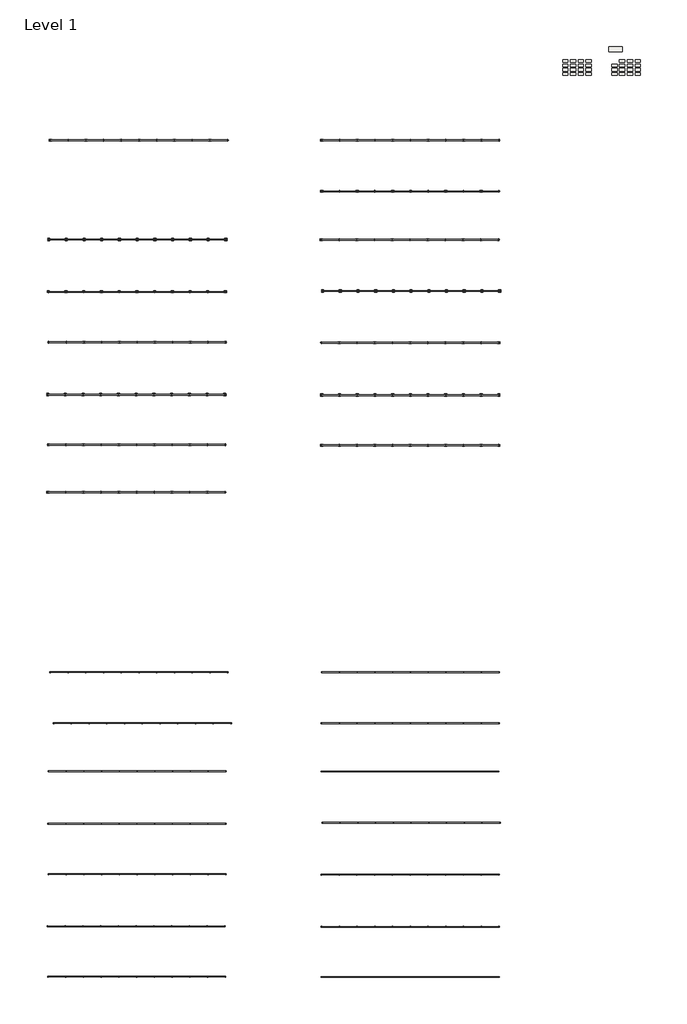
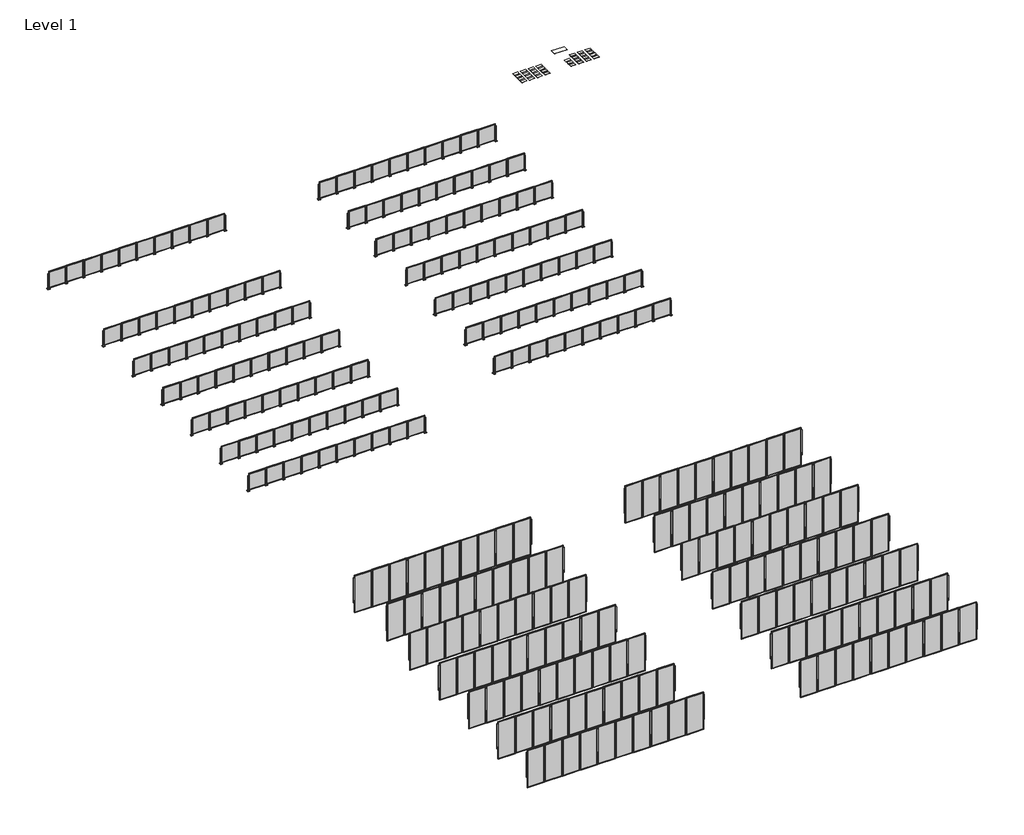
# One storey, incomplete: 32 slabs, 28 railings.
"""IFC4 building model written with IfcOpenShell, lengths in millimetres."""

from ifc_helpers import new_model, si_unit, frame, origin, place, context, project, spatial, polyline, outline, extrude, transform, mapped, element, save
from components import railing_5091dd00, railing_f60c109b, railing_ad077372, railing_c032f412, railing_22398365, railing_f4ae32ae, railing_47f15f1b, railing_b8a2d812, railing_13d9c8be, railing_e755882f, railing_f29662bd, railing_91e372f4, railing_0f50bcc0, railing_ad05e1b3, railing_8ff6461c, railing_0fd0b3dd, railing_570395e1, railing_dd76d824, railing_f9ef94e7, railing_c4543240, railing_b0e1d4a2, railing_f31c3002, railing_685e31f2, railing_c32b87f0, railing_c7cb529c, railing_8000f94c, railing_b8c0e774, railing_c7c183e7, railing_e510e1b7, railing_9c9bc759, railing_63da7288, railing_f84e100f, railing_f112f67b, railing_d92950a9, railing_2fe99872, railing_5ce61c46, railing_f1457b38, railing_005fe630, railing_8295e99d, railing_52cd1594, railing_f4e55a87, railing_542db5f6, railing_95e22be3, railing_e50479f8, railing_5d727bff, railing_dcffd05b, railing_ea33e46e, railing_fd5b3ce3, railing_5ba829ca, railing_43f9bcb1, railing_57754099, railing_bb2afcd9, railing_6d0a6d45, railing_a62e751d, railing_22421f22, railing_7f5f2e83

model = new_model("IFC4")

# Units and contexts
model_context = context("Model", 3, world=origin())
ifc_project = project(units=[si_unit("LENGTHUNIT", "METRE", prefix="MILLI")], contexts=[model_context])

# Site, building, storey
site = spatial("IfcSite", under=ifc_project)
building = spatial("IfcBuilding", under=site)
storey = spatial("IfcBuildingStorey", under=building, Name="Level 1", Elevation=0.0)

# Railings
placement = place(None, origin())
railing_shape = railing_5091dd00(model_context)
railing_2_shape = railing_f60c109b(model_context)
railing_3_shape = railing_ad077372(model_context)
element("IfcRailing", 1, ObjectType="Railing - Amico Architectural - Perforated Railing - Sunshade", at=placement, inside=storey, context=model_context, shape_type="MappedRepresentation", body=[
    mapped(railing_shape, transform((0.0, 0.0, 0.0), x_axis=(1.0, 0.0, 0.0), y_axis=(0.0, 1.0, 0.0), z_axis=(0.0, 0.0, 1.0))),
    mapped(railing_2_shape, transform((0.0, 0.0, 0.0), x_axis=(1.0, 0.0, 0.0), y_axis=(0.0, 1.0, 0.0), z_axis=(0.0, 0.0, 1.0))),
    mapped(railing_3_shape, transform((0.0, 0.0, 0.0), x_axis=(1.0, 0.0, 0.0), y_axis=(0.0, 1.0, 0.0), z_axis=(0.0, 0.0, 1.0))),
])
railing_4_shape = railing_c032f412(model_context)
railing_5_shape = railing_22398365(model_context)
railing_6_shape = railing_f4ae32ae(model_context)
element("IfcRailing", 2, ObjectType="Railing - Amico Architectural - Perforated Railing - 1/4\" Circle - 3/8\" Staggered", at=placement, inside=storey, context=model_context, shape_type="MappedRepresentation", body=[
    mapped(railing_4_shape, transform((0.0, 0.0, 0.0), x_axis=(1.0, 0.0, 0.0), y_axis=(0.0, 1.0, 0.0), z_axis=(0.0, 0.0, 1.0))),
    mapped(railing_5_shape, transform((0.0, 0.0, 0.0), x_axis=(1.0, 0.0, 0.0), y_axis=(0.0, 1.0, 0.0), z_axis=(0.0, 0.0, 1.0))),
    mapped(railing_6_shape, transform((0.0, 0.0, 0.0), x_axis=(1.0, 0.0, 0.0), y_axis=(0.0, 1.0, 0.0), z_axis=(0.0, 0.0, 1.0))),
])
railing_7_shape = railing_47f15f1b(model_context)
railing_8_shape = railing_b8a2d812(model_context)
railing_9_shape = railing_13d9c8be(model_context)
element("IfcRailing", 3, ObjectType="Railing - Amico Architectural - Perforated Railing - Apex01", at=placement, inside=storey, context=model_context, shape_type="MappedRepresentation", body=[
    mapped(railing_7_shape, transform((0.0, 0.0, 0.0), x_axis=(1.0, 0.0, 0.0), y_axis=(0.0, 1.0, 0.0), z_axis=(0.0, 0.0, 1.0))),
    mapped(railing_8_shape, transform((0.0, 0.0, 0.0), x_axis=(1.0, 0.0, 0.0), y_axis=(0.0, 1.0, 0.0), z_axis=(0.0, 0.0, 1.0))),
    mapped(railing_9_shape, transform((0.0, 0.0, 0.0), x_axis=(1.0, 0.0, 0.0), y_axis=(0.0, 1.0, 0.0), z_axis=(0.0, 0.0, 1.0))),
])
railing_10_shape = railing_e755882f(model_context)
railing_11_shape = railing_f29662bd(model_context)
railing_12_shape = railing_91e372f4(model_context)
element("IfcRailing", 4, ObjectType="Railing - Amico Architectural - Perforated Railing - 3/4\" Circle - 1\" Staggered", at=placement, inside=storey, context=model_context, shape_type="MappedRepresentation", body=[
    mapped(railing_10_shape, transform((0.0, 0.0, 0.0), x_axis=(1.0, 0.0, 0.0), y_axis=(0.0, 1.0, 0.0), z_axis=(0.0, 0.0, 1.0))),
    mapped(railing_11_shape, transform((0.0, 0.0, 0.0), x_axis=(1.0, 0.0, 0.0), y_axis=(0.0, 1.0, 0.0), z_axis=(0.0, 0.0, 1.0))),
    mapped(railing_12_shape, transform((0.0, 0.0, 0.0), x_axis=(1.0, 0.0, 0.0), y_axis=(0.0, 1.0, 0.0), z_axis=(0.0, 0.0, 1.0))),
])
railing_13_shape = railing_0f50bcc0(model_context)
railing_14_shape = railing_ad05e1b3(model_context)
railing_15_shape = railing_8ff6461c(model_context)
element("IfcRailing", 5, ObjectType="Railing - Amico Architectural - Perforated Railing - Apex02", at=placement, inside=storey, context=model_context, shape_type="MappedRepresentation", body=[
    mapped(railing_13_shape, transform((0.0, 0.0, 0.0), x_axis=(1.0, 0.0, 0.0), y_axis=(0.0, 1.0, 0.0), z_axis=(0.0, 0.0, 1.0))),
    mapped(railing_14_shape, transform((0.0, 0.0, 0.0), x_axis=(1.0, 0.0, 0.0), y_axis=(0.0, 1.0, 0.0), z_axis=(0.0, 0.0, 1.0))),
    mapped(railing_15_shape, transform((0.0, 0.0, 0.0), x_axis=(1.0, 0.0, 0.0), y_axis=(0.0, 1.0, 0.0), z_axis=(0.0, 0.0, 1.0))),
])
railing_16_shape = railing_0fd0b3dd(model_context)
railing_17_shape = railing_570395e1(model_context)
railing_18_shape = railing_dd76d824(model_context)
element("IfcRailing", 6, ObjectType="Railing - Amico Architectural - Perforated Railing - Crescent", at=placement, inside=storey, context=model_context, shape_type="MappedRepresentation", body=[
    mapped(railing_16_shape, transform((0.0, 0.0, 0.0), x_axis=(1.0, 0.0, 0.0), y_axis=(0.0, 1.0, 0.0), z_axis=(0.0, 0.0, 1.0))),
    mapped(railing_17_shape, transform((0.0, 0.0, 0.0), x_axis=(1.0, 0.0, 0.0), y_axis=(0.0, 1.0, 0.0), z_axis=(0.0, 0.0, 1.0))),
    mapped(railing_18_shape, transform((0.0, 0.0, 0.0), x_axis=(1.0, 0.0, 0.0), y_axis=(0.0, 1.0, 0.0), z_axis=(0.0, 0.0, 1.0))),
])
railing_19_shape = railing_f9ef94e7(model_context)
railing_20_shape = railing_c4543240(model_context)
railing_21_shape = railing_b0e1d4a2(model_context)
element("IfcRailing", 7, ObjectType="Railing - Amico Architectural - Perforated Railing - 3/16\" Circle - 5/16\" Staggered", at=placement, inside=storey, context=model_context, shape_type="MappedRepresentation", body=[
    mapped(railing_19_shape, transform((0.0, 0.0, 0.0), x_axis=(1.0, 0.0, 0.0), y_axis=(0.0, 1.0, 0.0), z_axis=(0.0, 0.0, 1.0))),
    mapped(railing_20_shape, transform((0.0, 0.0, 0.0), x_axis=(1.0, 0.0, 0.0), y_axis=(0.0, 1.0, 0.0), z_axis=(0.0, 0.0, 1.0))),
    mapped(railing_21_shape, transform((0.0, 0.0, 0.0), x_axis=(1.0, 0.0, 0.0), y_axis=(0.0, 1.0, 0.0), z_axis=(0.0, 0.0, 1.0))),
])
railing_22_shape = railing_f31c3002(model_context)
railing_23_shape = railing_685e31f2(model_context)
railing_24_shape = railing_c32b87f0(model_context)
element("IfcRailing", 8, ObjectType="Railing - Amico Architectural - Perforated Railing - Apex03", at=placement, inside=storey, context=model_context, shape_type="MappedRepresentation", body=[
    mapped(railing_22_shape, transform((0.0, 0.0, 0.0), x_axis=(1.0, 0.0, 0.0), y_axis=(0.0, 1.0, 0.0), z_axis=(0.0, 0.0, 1.0))),
    mapped(railing_23_shape, transform((0.0, 0.0, 0.0), x_axis=(1.0, 0.0, 0.0), y_axis=(0.0, 1.0, 0.0), z_axis=(0.0, 0.0, 1.0))),
    mapped(railing_24_shape, transform((0.0, 0.0, 0.0), x_axis=(1.0, 0.0, 0.0), y_axis=(0.0, 1.0, 0.0), z_axis=(0.0, 0.0, 1.0))),
])
railing_25_shape = railing_c7cb529c(model_context)
railing_26_shape = railing_8000f94c(model_context)
railing_27_shape = railing_b8c0e774(model_context)
element("IfcRailing", 9, ObjectType="Railing - Amico Architectural - Perforated Railing - Pisa", at=placement, inside=storey, context=model_context, shape_type="MappedRepresentation", body=[
    mapped(railing_25_shape, transform((0.0, 0.0, 0.0), x_axis=(1.0, 0.0, 0.0), y_axis=(0.0, 1.0, 0.0), z_axis=(0.0, 0.0, 1.0))),
    mapped(railing_26_shape, transform((0.0, 0.0, 0.0), x_axis=(1.0, 0.0, 0.0), y_axis=(0.0, 1.0, 0.0), z_axis=(0.0, 0.0, 1.0))),
    mapped(railing_27_shape, transform((0.0, 0.0, 0.0), x_axis=(1.0, 0.0, 0.0), y_axis=(0.0, 1.0, 0.0), z_axis=(0.0, 0.0, 1.0))),
])
railing_28_shape = railing_c7c183e7(model_context)
railing_29_shape = railing_e510e1b7(model_context)
railing_30_shape = railing_9c9bc759(model_context)
element("IfcRailing", 10, ObjectType="Railing - Amico Architectural - Perforated Railing - 9/16\" Circle - 11/16\" Staggered", at=placement, inside=storey, context=model_context, shape_type="MappedRepresentation", body=[
    mapped(railing_28_shape, transform((0.0, 0.0, 0.0), x_axis=(1.0, 0.0, 0.0), y_axis=(0.0, 1.0, 0.0), z_axis=(0.0, 0.0, 1.0))),
    mapped(railing_29_shape, transform((0.0, 0.0, 0.0), x_axis=(1.0, 0.0, 0.0), y_axis=(0.0, 1.0, 0.0), z_axis=(0.0, 0.0, 1.0))),
    mapped(railing_30_shape, transform((0.0, 0.0, 0.0), x_axis=(1.0, 0.0, 0.0), y_axis=(0.0, 1.0, 0.0), z_axis=(0.0, 0.0, 1.0))),
])
railing_31_shape = railing_63da7288(model_context)
railing_32_shape = railing_f84e100f(model_context)
railing_33_shape = railing_f112f67b(model_context)
element("IfcRailing", 11, ObjectType="Railing - Amico Architectural - Perforated Railing - Apex04", at=placement, inside=storey, context=model_context, shape_type="MappedRepresentation", body=[
    mapped(railing_31_shape, transform((0.0, 0.0, 0.0), x_axis=(1.0, 0.0, 0.0), y_axis=(0.0, 1.0, 0.0), z_axis=(0.0, 0.0, 1.0))),
    mapped(railing_32_shape, transform((0.0, 0.0, 0.0), x_axis=(1.0, 0.0, 0.0), y_axis=(0.0, 1.0, 0.0), z_axis=(0.0, 0.0, 1.0))),
    mapped(railing_33_shape, transform((0.0, 0.0, 0.0), x_axis=(1.0, 0.0, 0.0), y_axis=(0.0, 1.0, 0.0), z_axis=(0.0, 0.0, 1.0))),
])
railing_34_shape = railing_d92950a9(model_context)
railing_35_shape = railing_2fe99872(model_context)
railing_36_shape = railing_5ce61c46(model_context)
element("IfcRailing", 12, ObjectType="Railing - Amico Architectural - Perforated Railing - 1/2\" Circle - 11/16\" Staggered", at=placement, inside=storey, context=model_context, shape_type="MappedRepresentation", body=[
    mapped(railing_34_shape, transform((0.0, 0.0, 0.0), x_axis=(1.0, 0.0, 0.0), y_axis=(0.0, 1.0, 0.0), z_axis=(0.0, 0.0, 1.0))),
    mapped(railing_35_shape, transform((0.0, 0.0, 0.0), x_axis=(1.0, 0.0, 0.0), y_axis=(0.0, 1.0, 0.0), z_axis=(0.0, 0.0, 1.0))),
    mapped(railing_36_shape, transform((0.0, 0.0, 0.0), x_axis=(1.0, 0.0, 0.0), y_axis=(0.0, 1.0, 0.0), z_axis=(0.0, 0.0, 1.0))),
])
railing_37_shape = railing_f1457b38(model_context)
railing_38_shape = railing_005fe630(model_context)
railing_39_shape = railing_8295e99d(model_context)
element("IfcRailing", 13, ObjectType="Railing - Amico Architectural - Perforated Railing - Bilbao", at=placement, inside=storey, context=model_context, shape_type="MappedRepresentation", body=[
    mapped(railing_37_shape, transform((0.0, 0.0, 0.0), x_axis=(1.0, 0.0, 0.0), y_axis=(0.0, 1.0, 0.0), z_axis=(0.0, 0.0, 1.0))),
    mapped(railing_38_shape, transform((0.0, 0.0, 0.0), x_axis=(1.0, 0.0, 0.0), y_axis=(0.0, 1.0, 0.0), z_axis=(0.0, 0.0, 1.0))),
    mapped(railing_39_shape, transform((0.0, 0.0, 0.0), x_axis=(1.0, 0.0, 0.0), y_axis=(0.0, 1.0, 0.0), z_axis=(0.0, 0.0, 1.0))),
])
railing_40_shape = railing_52cd1594(model_context)
railing_41_shape = railing_f4e55a87(model_context)
railing_42_shape = railing_542db5f6(model_context)
element("IfcRailing", 14, ObjectType="Railing - Amico Architectural - Perforated Railing - Venetian", at=placement, inside=storey, context=model_context, shape_type="MappedRepresentation", body=[
    mapped(railing_40_shape, transform((0.0, 0.0, 0.0), x_axis=(1.0, 0.0, 0.0), y_axis=(0.0, 1.0, 0.0), z_axis=(0.0, 0.0, 1.0))),
    mapped(railing_41_shape, transform((0.0, 0.0, 0.0), x_axis=(1.0, 0.0, 0.0), y_axis=(0.0, 1.0, 0.0), z_axis=(0.0, 0.0, 1.0))),
    mapped(railing_42_shape, transform((0.0, 0.0, 0.0), x_axis=(1.0, 0.0, 0.0), y_axis=(0.0, 1.0, 0.0), z_axis=(0.0, 0.0, 1.0))),
])
railing_43_shape = railing_95e22be3(model_context)
element("IfcRailing", 15, ObjectType="Railing - Amico Architectural - Expanded Mesh Railing - Crescent", at=placement, inside=storey, context=model_context, shape_type="MappedRepresentation", body=[
    mapped(railing_43_shape, transform((0.0, 0.0, 0.0), x_axis=(1.0, 0.0, 0.0), y_axis=(0.0, 1.0, 0.0), z_axis=(0.0, 0.0, 1.0))),
])
railing_44_shape = railing_e50479f8(model_context)
element("IfcRailing", 16, ObjectType="Railing - Amico Architectural - Expanded Mesh Railing - Sunshade", at=placement, inside=storey, context=model_context, shape_type="MappedRepresentation", body=[
    mapped(railing_44_shape, transform((0.0, 0.0, 0.0), x_axis=(1.0, 0.0, 0.0), y_axis=(0.0, 1.0, 0.0), z_axis=(0.0, 0.0, 1.0))),
])
railing_45_shape = railing_5d727bff(model_context)
element("IfcRailing", 17, ObjectType="Railing - Amico Architectural - Expanded Mesh Railing - Apex01", at=placement, inside=storey, context=model_context, shape_type="MappedRepresentation", body=[
    mapped(railing_45_shape, transform((0.0, 0.0, 0.0), x_axis=(1.0, 0.0, 0.0), y_axis=(0.0, 1.0, 0.0), z_axis=(0.0, 0.0, 1.0))),
])
railing_46_shape = railing_dcffd05b(model_context)
element("IfcRailing", 18, ObjectType="Railing - Amico Architectural - Expanded Mesh Railing - Bilbao", at=placement, inside=storey, context=model_context, shape_type="MappedRepresentation", body=[
    mapped(railing_46_shape, transform((0.0, 0.0, 0.0), x_axis=(1.0, 0.0, 0.0), y_axis=(0.0, 1.0, 0.0), z_axis=(0.0, 0.0, 1.0))),
])
railing_47_shape = railing_ea33e46e(model_context)
element("IfcRailing", 19, ObjectType="Railing - Amico Architectural - Expanded Mesh Railing - Pisa", at=placement, inside=storey, context=model_context, shape_type="MappedRepresentation", body=[
    mapped(railing_47_shape, transform((0.0, 0.0, 0.0), x_axis=(1.0, 0.0, 0.0), y_axis=(0.0, 1.0, 0.0), z_axis=(0.0, 0.0, 1.0))),
])
railing_48_shape = railing_fd5b3ce3(model_context)
element("IfcRailing", 20, ObjectType="Railing - Amico Architectural - Expanded Mesh Railing - Venetian", at=placement, inside=storey, context=model_context, shape_type="MappedRepresentation", body=[
    mapped(railing_48_shape, transform((0.0, 0.0, 0.0), x_axis=(1.0, 0.0, 0.0), y_axis=(0.0, 1.0, 0.0), z_axis=(0.0, 0.0, 1.0))),
])
railing_49_shape = railing_5ba829ca(model_context)
element("IfcRailing", 21, ObjectType="Railing - Amico Architectural - Expanded Mesh Railing - 3/16\" Circle - 5/16\" Staggered", at=placement, inside=storey, context=model_context, shape_type="MappedRepresentation", body=[
    mapped(railing_49_shape, transform((0.0, 0.0, 0.0), x_axis=(1.0, 0.0, 0.0), y_axis=(0.0, 1.0, 0.0), z_axis=(0.0, 0.0, 1.0))),
])
railing_50_shape = railing_43f9bcb1(model_context)
element("IfcRailing", 22, ObjectType="Railing - Amico Architectural - Expanded Mesh Railing - 1/4\" Circle - 3/8\" Staggered", at=placement, inside=storey, context=model_context, shape_type="MappedRepresentation", body=[
    mapped(railing_50_shape, transform((0.0, 0.0, 0.0), x_axis=(1.0, 0.0, 0.0), y_axis=(0.0, 1.0, 0.0), z_axis=(0.0, 0.0, 1.0))),
])
railing_51_shape = railing_57754099(model_context)
element("IfcRailing", 23, ObjectType="Railing - Amico Architectural - Expanded Mesh Railing - Apex02", at=placement, inside=storey, context=model_context, shape_type="MappedRepresentation", body=[
    mapped(railing_51_shape, transform((0.0, 0.0, 0.0), x_axis=(1.0, 0.0, 0.0), y_axis=(0.0, 1.0, 0.0), z_axis=(0.0, 0.0, 1.0))),
])
railing_52_shape = railing_bb2afcd9(model_context)
element("IfcRailing", 24, ObjectType="Railing - Amico Architectural - Expanded Mesh Railing - Apex04", at=placement, inside=storey, context=model_context, shape_type="MappedRepresentation", body=[
    mapped(railing_52_shape, transform((0.0, 0.0, 0.0), x_axis=(1.0, 0.0, 0.0), y_axis=(0.0, 1.0, 0.0), z_axis=(0.0, 0.0, 1.0))),
])
railing_53_shape = railing_6d0a6d45(model_context)
element("IfcRailing", 25, ObjectType="Railing - Amico Architectural - Expanded Mesh Railing - Apex03", at=placement, inside=storey, context=model_context, shape_type="MappedRepresentation", body=[
    mapped(railing_53_shape, transform((0.0, 0.0, 0.0), x_axis=(1.0, 0.0, 0.0), y_axis=(0.0, 1.0, 0.0), z_axis=(0.0, 0.0, 1.0))),
])
railing_54_shape = railing_a62e751d(model_context)
element("IfcRailing", 26, ObjectType="Railing - Amico Architectural - Expanded Mesh Railing - 1/2\" Circle - 11/16\" Staggered", at=placement, inside=storey, context=model_context, shape_type="MappedRepresentation", body=[
    mapped(railing_54_shape, transform((0.0, 0.0, 0.0), x_axis=(1.0, 0.0, 0.0), y_axis=(0.0, 1.0, 0.0), z_axis=(0.0, 0.0, 1.0))),
])
railing_55_shape = railing_22421f22(model_context)
element("IfcRailing", 27, ObjectType="Railing - Amico Architectural - Expanded Mesh Railing - 3/4\" Circle - 1\" Staggered", at=placement, inside=storey, context=model_context, shape_type="MappedRepresentation", body=[
    mapped(railing_55_shape, transform((0.0, 0.0, 0.0), x_axis=(1.0, 0.0, 0.0), y_axis=(0.0, 1.0, 0.0), z_axis=(0.0, 0.0, 1.0))),
])
railing_56_shape = railing_7f5f2e83(model_context)
element("IfcRailing", 28, ObjectType="Railing - Amico Architectural - Expanded Mesh Railing - 9/16\" Circle - 11/16\" Staggered", at=placement, inside=storey, context=model_context, shape_type="MappedRepresentation", body=[
    mapped(railing_56_shape, transform((0.0, 0.0, 0.0), x_axis=(1.0, 0.0, 0.0), y_axis=(0.0, 1.0, 0.0), z_axis=(0.0, 0.0, 1.0))),
])

# Slabs
element("IfcSlab", 29, ObjectType="Generic - 12\"", at=placement, inside=storey, context=model_context, shape_type="SweptSolid", body=[
    extrude(outline(polyline([(1259.2969748, 12369.2121957), (1259.2969748, 12216.8121957), (954.4969748, 12216.8121957), (954.4969748, 12369.2121957), (1259.2969748, 12369.2121957)])), frame((0.0, 0.0, -1.5875), z_axis=(0.0, 0.0, 1.0), x_axis=(1.0, 0.0, 0.0)), (0.0, 0.0, 1.0), 1.5875),
])
element("IfcSlab", 30, ObjectType="Generic - 12\"", at=placement, inside=storey, context=model_context, shape_type="SweptSolid", body=[
    extrude(outline(polyline([(1259.2969748, 12120.7100918), (1259.2969748, 11968.3100918), (954.4969748, 11968.3100918), (954.4969748, 12120.7100918), (1259.2969748, 12120.7100918)])), frame((0.0, 0.0, -1.5875), z_axis=(0.0, 0.0, 1.0), x_axis=(1.0, 0.0, 0.0)), (0.0, 0.0, 1.0), 1.5875),
])
element("IfcSlab", 31, ObjectType="Generic - 12\"", at=placement, inside=storey, context=model_context, shape_type="SweptSolid", body=[
    extrude(outline(polyline([(816.4563161, 12369.2121957), (816.4563161, 12216.8121957), (511.6563161, 12216.8121957), (511.6563161, 12369.2121957), (816.4563161, 12369.2121957)])), frame((0.0, 0.0, -1.5875), z_axis=(0.0, 0.0, 1.0), x_axis=(1.0, 0.0, 0.0)), (0.0, 0.0, 1.0), 1.5875),
])
element("IfcSlab", 32, ObjectType="Generic - 12\"", at=placement, inside=storey, context=model_context, shape_type="SweptSolid", body=[
    extrude(outline(polyline([(1702.6867303, 12120.7100918), (1702.6867303, 11968.3100918), (1397.8867303, 11968.3100918), (1397.8867303, 12120.7100918), (1702.6867303, 12120.7100918)])), frame((0.0, 0.0, -1.5875), z_axis=(0.0, 0.0, 1.0), x_axis=(1.0, 0.0, 0.0)), (0.0, 0.0, 1.0), 1.5875),
])
element("IfcSlab", 33, ObjectType="Generic - 12\"", at=placement, inside=storey, context=model_context, shape_type="SweptSolid", body=[
    extrude(outline(polyline([(815.0955866, 11874.1238955), (815.0955866, 11721.7238955), (510.2955866, 11721.7238955), (510.2955866, 11874.1238955), (815.0955866, 11874.1238955)])), frame((0.0, 0.0, -1.5875), z_axis=(0.0, 0.0, 1.0), x_axis=(1.0, 0.0, 0.0)), (0.0, 0.0, 1.0), 1.5875),
])
element("IfcSlab", 34, ObjectType="Generic - 12\"", at=placement, inside=storey, context=model_context, shape_type="SweptSolid", body=[
    extrude(outline(polyline([(1259.2969748, 11874.1238955), (1259.2969748, 11721.7238955), (954.4969748, 11721.7238955), (954.4969748, 11874.1238955), (1259.2969748, 11874.1238955)])), frame((0.0, 0.0, -1.5875), z_axis=(0.0, 0.0, 1.0), x_axis=(1.0, 0.0, 0.0)), (0.0, 0.0, 1.0), 1.5875),
])
element("IfcSlab", 35, ObjectType="Generic - 12\"", at=placement, inside=storey, context=model_context, shape_type="SweptSolid", body=[
    extrude(outline(polyline([(1259.2969748, 11626.0907709), (1259.2969748, 11473.6907709), (954.4969748, 11473.6907709), (954.4969748, 11626.0907709), (1259.2969748, 11626.0907709)])), frame((0.0, 0.0, -1.5875), z_axis=(0.0, 0.0, 1.0), x_axis=(1.0, 0.0, 0.0)), (0.0, 0.0, 1.0), 1.5875),
])
element("IfcSlab", 36, ObjectType="Generic - 12\"", at=placement, inside=storey, context=model_context, shape_type="SweptSolid", body=[
    extrude(outline(polyline([(2154.1929471, 11874.1238955), (2154.1929471, 11721.7238955), (1849.3929471, 11721.7238955), (1849.3929471, 11874.1238955), (2154.1929471, 11874.1238955)])), frame((0.0, 0.0, -1.5875), z_axis=(0.0, 0.0, 1.0), x_axis=(1.0, 0.0, 0.0)), (0.0, 0.0, 1.0), 1.5875),
])
element("IfcSlab", 37, ObjectType="Generic - 12\"", at=placement, inside=storey, context=model_context, shape_type="SweptSolid", body=[
    extrude(outline(polyline([(2154.1929471, 11626.0907709), (2154.1929471, 11473.6907709), (1849.3929471, 11473.6907709), (1849.3929471, 11626.0907709), (2154.1929471, 11626.0907709)])), frame((0.0, 0.0, -1.5875), z_axis=(0.0, 0.0, 1.0), x_axis=(1.0, 0.0, 0.0)), (0.0, 0.0, 1.0), 1.5875),
])
element("IfcSlab", 38, ObjectType="Generic - 12\"", at=placement, inside=storey, context=model_context, shape_type="SweptSolid", body=[
    extrude(outline(polyline([(1702.6867303, 12369.2121957), (1702.6867303, 12216.8121957), (1397.8867303, 12216.8121957), (1397.8867303, 12369.2121957), (1702.6867303, 12369.2121957)])), frame((0.0, 0.0, -1.5875), z_axis=(0.0, 0.0, 1.0), x_axis=(1.0, 0.0, 0.0)), (0.0, 0.0, 1.0), 1.5875),
])
element("IfcSlab", 39, ObjectType="Generic - 12\"", at=placement, inside=storey, context=model_context, shape_type="SweptSolid", body=[
    extrude(outline(polyline([(2154.1929471, 12369.2121957), (2154.1929471, 12216.8121957), (1849.3929471, 12216.8121957), (1849.3929471, 12369.2121957), (2154.1929471, 12369.2121957)])), frame((0.0, 0.0, -1.5875), z_axis=(0.0, 0.0, 1.0), x_axis=(1.0, 0.0, 0.0)), (0.0, 0.0, 1.0), 1.5875),
])
element("IfcSlab", 40, ObjectType="Generic - 12\"", at=placement, inside=storey, context=model_context, shape_type="SweptSolid", body=[
    extrude(outline(polyline([(1702.6867303, 11626.0907709), (1702.6867303, 11473.6907709), (1397.8867303, 11473.6907709), (1397.8867303, 11626.0907709), (1702.6867303, 11626.0907709)])), frame((0.0, 0.0, -1.5875), z_axis=(0.0, 0.0, 1.0), x_axis=(1.0, 0.0, 0.0)), (0.0, 0.0, 1.0), 1.5875),
])
element("IfcSlab", 41, ObjectType="Generic - 12\"", at=placement, inside=storey, context=model_context, shape_type="SweptSolid", body=[
    extrude(outline(polyline([(1702.6867303, 11874.1238955), (1702.6867303, 11721.7238955), (1397.8867303, 11721.7238955), (1397.8867303, 11874.1238955), (1702.6867303, 11874.1238955)])), frame((0.0, 0.0, -1.5875), z_axis=(0.0, 0.0, 1.0), x_axis=(1.0, 0.0, 0.0)), (0.0, 0.0, 1.0), 1.5875),
])
element("IfcSlab", 42, ObjectType="Generic - 12\"", at=placement, inside=storey, context=model_context, shape_type="SweptSolid", body=[
    extrude(outline(polyline([(815.0955866, 11626.0907709), (815.0955866, 11473.6907709), (510.2955866, 11473.6907709), (510.2955866, 11626.0907709), (815.0955866, 11626.0907709)])), frame((0.0, 0.0, -1.5875), z_axis=(0.0, 0.0, 1.0), x_axis=(1.0, 0.0, 0.0)), (0.0, 0.0, 1.0), 1.5875),
])
element("IfcSlab", 43, ObjectType="Generic - 12\"", at=placement, inside=storey, context=model_context, shape_type="SweptSolid", body=[
    extrude(outline(polyline([(815.0955866, 12120.7100918), (815.0955866, 11968.3100918), (510.2955866, 11968.3100918), (510.2955866, 12120.7100918), (815.0955866, 12120.7100918)])), frame((0.0, 0.0, -1.5875), z_axis=(0.0, 0.0, 1.0), x_axis=(1.0, 0.0, 0.0)), (0.0, 0.0, 1.0), 1.5875),
])
element("IfcSlab", 44, ObjectType="Generic - 12\"", at=placement, inside=storey, context=model_context, shape_type="SweptSolid", body=[
    extrude(outline(polyline([(2154.1929471, 12120.7100918), (2154.1929471, 11968.3100918), (1849.3929471, 11968.3100918), (1849.3929471, 12120.7100918), (2154.1929471, 12120.7100918)])), frame((0.0, 0.0, -1.5875), z_axis=(0.0, 0.0, 1.0), x_axis=(1.0, 0.0, 0.0)), (0.0, 0.0, 1.0), 1.5875),
])
element("IfcSlab", 45, ObjectType="Generic - 12\"", at=placement, inside=storey, context=model_context, shape_type="SweptSolid", body=[
    extrude(outline(polyline([(4078.6969748, 12369.2121957), (4078.6969748, 12216.8121957), (3773.8969748, 12216.8121957), (3773.8969748, 12369.2121957), (4078.6969748, 12369.2121957)])), frame((0.0, 0.0, -1.5875), z_axis=(0.0, 0.0, 1.0), x_axis=(1.0, 0.0, 0.0)), (0.0, 0.0, 1.0), 1.5875),
])
element("IfcSlab", 46, ObjectType="Generic - 12\"", at=placement, inside=storey, context=model_context, shape_type="SweptSolid", body=[
    extrude(outline(polyline([(4078.6969748, 12120.7100918), (4078.6969748, 11968.3100918), (3773.8969748, 11968.3100918), (3773.8969748, 12120.7100918), (4078.6969748, 12120.7100918)])), frame((0.0, 0.0, -1.5875), z_axis=(0.0, 0.0, 1.0), x_axis=(1.0, 0.0, 0.0)), (0.0, 0.0, 1.0), 1.5875),
])
element("IfcSlab", 47, ObjectType="Generic - 12\"", at=placement, inside=storey, context=model_context, shape_type="SweptSolid", body=[
    extrude(outline(polyline([(3921.2303994, 13128.8466994), (3921.2303994, 12824.0466994), (3159.2303994, 12824.0466994), (3159.2303994, 13128.8466994), (3921.2303994, 13128.8466994)])), frame((0.0, 0.0, -1.5875), z_axis=(0.0, 0.0, 1.0), x_axis=(1.0, 0.0, 0.0)), (0.0, 0.0, 1.0), 1.5875),
])
element("IfcSlab", 48, ObjectType="Generic - 12\"", at=placement, inside=storey, context=model_context, shape_type="SweptSolid", body=[
    extrude(outline(polyline([(4522.0867303, 12120.7100918), (4522.0867303, 11968.3100918), (4217.2867303, 11968.3100918), (4217.2867303, 12120.7100918), (4522.0867303, 12120.7100918)])), frame((0.0, 0.0, -1.5875), z_axis=(0.0, 0.0, 1.0), x_axis=(1.0, 0.0, 0.0)), (0.0, 0.0, 1.0), 1.5875),
])
element("IfcSlab", 49, ObjectType="Generic - 12\"", at=placement, inside=storey, context=model_context, shape_type="SweptSolid", body=[
    extrude(outline(polyline([(3634.4955866, 11874.1238955), (3634.4955866, 11721.7238955), (3329.6955866, 11721.7238955), (3329.6955866, 11874.1238955), (3634.4955866, 11874.1238955)])), frame((0.0, 0.0, -1.5875), z_axis=(0.0, 0.0, 1.0), x_axis=(1.0, 0.0, 0.0)), (0.0, 0.0, 1.0), 1.5875),
])
element("IfcSlab", 50, ObjectType="Generic - 12\"", at=placement, inside=storey, context=model_context, shape_type="SweptSolid", body=[
    extrude(outline(polyline([(4078.6969748, 11874.1238955), (4078.6969748, 11721.7238955), (3773.8969748, 11721.7238955), (3773.8969748, 11874.1238955), (4078.6969748, 11874.1238955)])), frame((0.0, 0.0, -1.5875), z_axis=(0.0, 0.0, 1.0), x_axis=(1.0, 0.0, 0.0)), (0.0, 0.0, 1.0), 1.5875),
])
element("IfcSlab", 51, ObjectType="Generic - 12\"", at=placement, inside=storey, context=model_context, shape_type="SweptSolid", body=[
    extrude(outline(polyline([(4078.6969748, 11626.0907709), (4078.6969748, 11473.6907709), (3773.8969748, 11473.6907709), (3773.8969748, 11626.0907709), (4078.6969748, 11626.0907709)])), frame((0.0, 0.0, -1.5875), z_axis=(0.0, 0.0, 1.0), x_axis=(1.0, 0.0, 0.0)), (0.0, 0.0, 1.0), 1.5875),
])
element("IfcSlab", 52, ObjectType="Generic - 12\"", at=placement, inside=storey, context=model_context, shape_type="SweptSolid", body=[
    extrude(outline(polyline([(4973.5929471, 11874.1238955), (4973.5929471, 11721.7238955), (4668.7929471, 11721.7238955), (4668.7929471, 11874.1238955), (4973.5929471, 11874.1238955)])), frame((0.0, 0.0, -1.5875), z_axis=(0.0, 0.0, 1.0), x_axis=(1.0, 0.0, 0.0)), (0.0, 0.0, 1.0), 1.5875),
])
element("IfcSlab", 53, ObjectType="Generic - 12\"", at=placement, inside=storey, context=model_context, shape_type="SweptSolid", body=[
    extrude(outline(polyline([(4973.5929471, 11626.0907709), (4973.5929471, 11473.6907709), (4668.7929471, 11473.6907709), (4668.7929471, 11626.0907709), (4973.5929471, 11626.0907709)])), frame((0.0, 0.0, -1.5875), z_axis=(0.0, 0.0, 1.0), x_axis=(1.0, 0.0, 0.0)), (0.0, 0.0, 1.0), 1.5875),
])
element("IfcSlab", 54, ObjectType="Generic - 12\"", at=placement, inside=storey, context=model_context, shape_type="SweptSolid", body=[
    extrude(outline(polyline([(4522.0867303, 12369.2121957), (4522.0867303, 12216.8121957), (4217.2867303, 12216.8121957), (4217.2867303, 12369.2121957), (4522.0867303, 12369.2121957)])), frame((0.0, 0.0, -1.5875), z_axis=(0.0, 0.0, 1.0), x_axis=(1.0, 0.0, 0.0)), (0.0, 0.0, 1.0), 1.5875),
])
element("IfcSlab", 55, ObjectType="Generic - 12\"", at=placement, inside=storey, context=model_context, shape_type="SweptSolid", body=[
    extrude(outline(polyline([(4973.5929471, 12369.2121957), (4973.5929471, 12216.8121957), (4668.7929471, 12216.8121957), (4668.7929471, 12369.2121957), (4973.5929471, 12369.2121957)])), frame((0.0, 0.0, -1.5875), z_axis=(0.0, 0.0, 1.0), x_axis=(1.0, 0.0, 0.0)), (0.0, 0.0, 1.0), 1.5875),
])
element("IfcSlab", 56, ObjectType="Generic - 12\"", at=placement, inside=storey, context=model_context, shape_type="SweptSolid", body=[
    extrude(outline(polyline([(4522.0867303, 11626.0907709), (4522.0867303, 11473.6907709), (4217.2867303, 11473.6907709), (4217.2867303, 11626.0907709), (4522.0867303, 11626.0907709)])), frame((0.0, 0.0, -1.5875), z_axis=(0.0, 0.0, 1.0), x_axis=(1.0, 0.0, 0.0)), (0.0, 0.0, 1.0), 1.5875),
])
element("IfcSlab", 57, ObjectType="Generic - 12\"", at=placement, inside=storey, context=model_context, shape_type="SweptSolid", body=[
    extrude(outline(polyline([(4522.0867303, 11874.1238955), (4522.0867303, 11721.7238955), (4217.2867303, 11721.7238955), (4217.2867303, 11874.1238955), (4522.0867303, 11874.1238955)])), frame((0.0, 0.0, -1.5875), z_axis=(0.0, 0.0, 1.0), x_axis=(1.0, 0.0, 0.0)), (0.0, 0.0, 1.0), 1.5875),
])
element("IfcSlab", 58, ObjectType="Generic - 12\"", at=placement, inside=storey, context=model_context, shape_type="SweptSolid", body=[
    extrude(outline(polyline([(3634.4955866, 11626.0907709), (3634.4955866, 11473.6907709), (3329.6955866, 11473.6907709), (3329.6955866, 11626.0907709), (3634.4955866, 11626.0907709)])), frame((0.0, 0.0, -1.5875), z_axis=(0.0, 0.0, 1.0), x_axis=(1.0, 0.0, 0.0)), (0.0, 0.0, 1.0), 1.5875),
])
element("IfcSlab", 59, ObjectType="Generic - 12\"", at=placement, inside=storey, context=model_context, shape_type="SweptSolid", body=[
    extrude(outline(polyline([(3634.4955866, 12120.7100918), (3634.4955866, 11968.3100918), (3329.6955866, 11968.3100918), (3329.6955866, 12120.7100918), (3634.4955866, 12120.7100918)])), frame((0.0, 0.0, -1.5875), z_axis=(0.0, 0.0, 1.0), x_axis=(1.0, 0.0, 0.0)), (0.0, 0.0, 1.0), 1.5875),
])
element("IfcSlab", 60, ObjectType="Generic - 12\"", at=placement, inside=storey, context=model_context, shape_type="SweptSolid", body=[
    extrude(outline(polyline([(4973.5929471, 12120.7100918), (4973.5929471, 11968.3100918), (4668.7929471, 11968.3100918), (4668.7929471, 12120.7100918), (4973.5929471, 12120.7100918)])), frame((0.0, 0.0, -1.5875), z_axis=(0.0, 0.0, 1.0), x_axis=(1.0, 0.0, 0.0)), (0.0, 0.0, 1.0), 1.5875),
])

save(model, "model.ifc")
